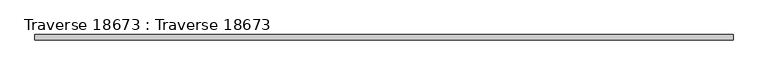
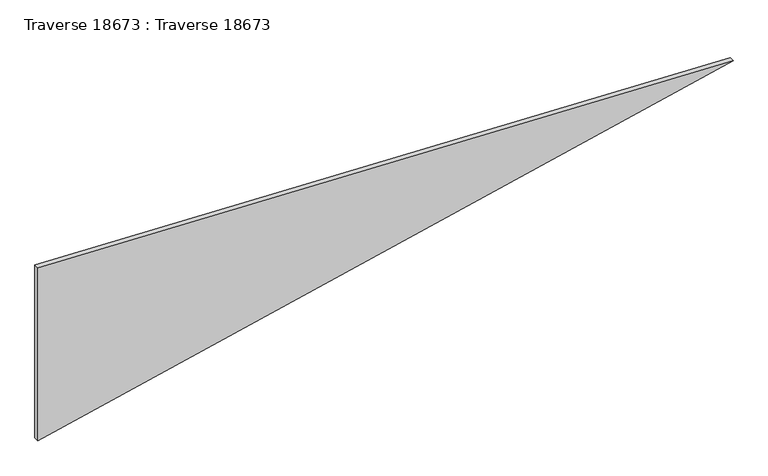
"""IFC4 building model written with IfcOpenShell, lengths in millimetres: beam geometry, Traverse 18673 : Traverse 18673."""

from ifc_helpers import new_model, si_unit, frame, origin, place, context, project, spatial, polyline, outline, extrude, source, transform, mapped, element, save


def traverse_18673_traverse_18673_326ecedf(model_context):
    return source(origin(), model_context, "Body", "SweptSolid", [
        extrude(outline(polyline([(7242.0359427, 195.3384248), (7575.5248218, 1655.1500908), (7626.618758, 195.3233409), (7242.0359427, 195.3384248)])), frame((0.0, -8605.55, 0.0), z_axis=(0.0, 1.0, 0.0), x_axis=(0.0, 0.0, 1.0)), (0.0, 0.0, 1.0), 11.1),
    ])


if __name__ == "__main__":
    model = new_model("IFC4")
    model_context = context("Model", 3, world=origin())
    ifc_project = project(units=[si_unit("LENGTHUNIT", "METRE", prefix="MILLI")], contexts=[model_context])
    site = spatial("IfcSite", under=ifc_project)
    building = spatial("IfcBuilding", under=site)
    placement = place(None, origin())
    traverse_18673_traverse_18673_shape = traverse_18673_traverse_18673_326ecedf(model_context)
    element("IfcBeam", 1, ObjectType="Traverse 18673 : Traverse 18673", at=placement, inside=building, context=model_context, shape_type="MappedRepresentation", body=[
        mapped(traverse_18673_traverse_18673_shape, transform((0.0, 0.0, 0.0), x_axis=(1.0, 0.0, 0.0), y_axis=(0.0, 1.0, 0.0), z_axis=(0.0, 0.0, 1.0))),
    ])
    save(model, "model.ifc")
